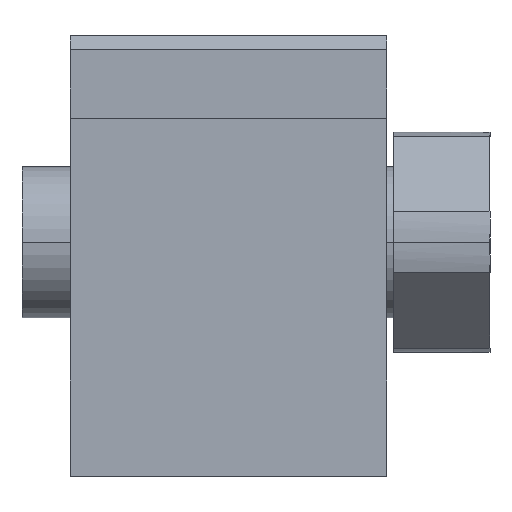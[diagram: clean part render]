
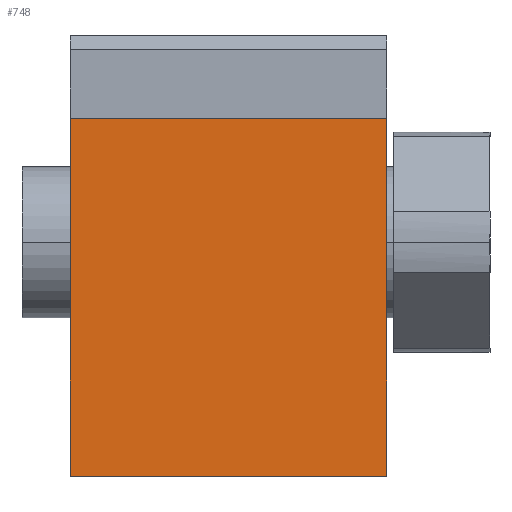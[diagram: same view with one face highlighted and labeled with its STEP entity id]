
A CAD part, front view. The second image highlights one B-rep face of the part: STEP entity #748.
In plain terms, the highlighted planar face has unit normal (0, -1, 0).
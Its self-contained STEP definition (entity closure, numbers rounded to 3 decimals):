
#354=CARTESIAN_POINT('Vertex',(-23.,-26.,-17.)) ;
#370=CARTESIAN_POINT('Vertex',(0.,-26.,-17.)) ;
#373=CARTESIAN_POINT('Line Origine',(-11.5,-26.,-17.)) ;
#481=CARTESIAN_POINT('Line Origine',(-23.,-26.,-4.)) ;
#485=CARTESIAN_POINT('Vertex',(-23.,-26.,9.)) ;
#615=CARTESIAN_POINT('Vertex',(0.,-26.,9.)) ;
#618=CARTESIAN_POINT('Line Origine',(0.,-26.,-4.)) ;
#732=CARTESIAN_POINT('Axis2P3D Location',(0.,-26.,-17.)) ;
#737=CARTESIAN_POINT('Line Origine',(-11.5,-26.,9.)) ;
#374=DIRECTION('Vector Direction',(-1.,0.,0.)) ;
#482=DIRECTION('Vector Direction',(0.,0.,1.)) ;
#619=DIRECTION('Vector Direction',(0.,0.,1.)) ;
#733=DIRECTION('Axis2P3D Direction',(0.,-1.,0.)) ;
#734=DIRECTION('Axis2P3D XDirection',(0.,0.,1.)) ;
#738=DIRECTION('Vector Direction',(-1.,0.,0.)) ;
#735=AXIS2_PLACEMENT_3D('Plane Axis2P3D',#732,#733,#734) ;
#743=ORIENTED_EDGE('',*,*,#487,.T.) ;
#744=ORIENTED_EDGE('',*,*,#377,.F.) ;
#745=ORIENTED_EDGE('',*,*,#622,.F.) ;
#746=ORIENTED_EDGE('',*,*,#741,.T.) ;
#375=VECTOR('Line Direction',#374,1.) ;
#483=VECTOR('Line Direction',#482,1.) ;
#620=VECTOR('Line Direction',#619,1.) ;
#739=VECTOR('Line Direction',#738,1.) ;
#748=ADVANCED_FACE('EK8(H)',(#747),#736,.T.) ;
#377=EDGE_CURVE('',#371,#355,#376,.T.) ;
#487=EDGE_CURVE('',#486,#355,#484,.F.) ;
#622=EDGE_CURVE('',#616,#371,#621,.F.) ;
#741=EDGE_CURVE('',#616,#486,#740,.T.) ;
#742=EDGE_LOOP('',(#743,#744,#745,#746)) ;
#747=FACE_OUTER_BOUND('',#742,.T.) ;
#376=LINE('Line',#373,#375) ;
#484=LINE('Line',#481,#483) ;
#621=LINE('Line',#618,#620) ;
#740=LINE('Line',#737,#739) ;
#736=PLANE('Plane',#735) ;
#355=VERTEX_POINT('',#354) ;
#371=VERTEX_POINT('',#370) ;
#486=VERTEX_POINT('',#485) ;
#616=VERTEX_POINT('',#615) ;
